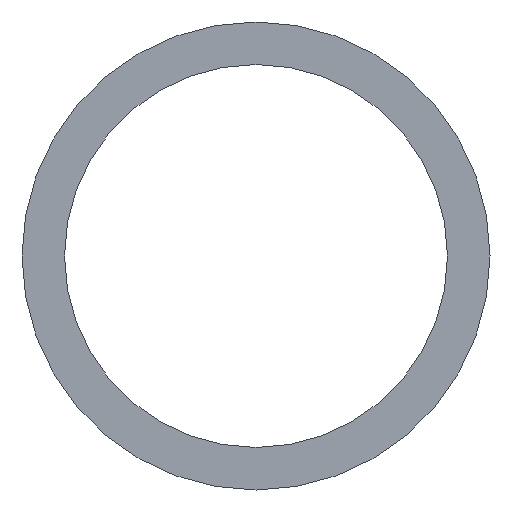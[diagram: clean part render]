
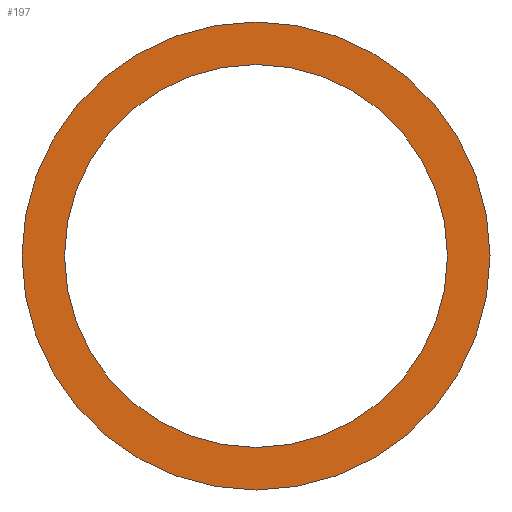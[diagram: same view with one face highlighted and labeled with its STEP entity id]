
A CAD part, front view. The second image highlights one B-rep face of the part: STEP entity #197.
In plain terms, the highlighted planar face has unit normal (0, -1, 0).
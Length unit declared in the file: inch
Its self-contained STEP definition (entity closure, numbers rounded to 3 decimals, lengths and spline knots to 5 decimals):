
#1 = EDGE_CURVE ( 'NONE', #91, #82, #131, .T. ) ;
#30 = CARTESIAN_POINT ( 'NONE',  ( 0., 0., -354.33071 ) ) ;
#38 = DIRECTION ( 'NONE',  ( 0., 1., 0. ) ) ;
#44 = CIRCLE ( 'NONE', #112, 354.33071 ) ;
#47 = ORIENTED_EDGE ( 'NONE', *, *, #147, .T. ) ;
#70 = CARTESIAN_POINT ( 'NONE',  ( 0., 0., 354.33071 ) ) ;
#73 = CARTESIAN_POINT ( 'NONE',  ( 0., 0., 0. ) ) ;
#82 = VERTEX_POINT ( 'NONE', #70 ) ;
#83 = EDGE_CURVE ( 'NONE', #187, #125, #156, .T. ) ;
#85 = ORIENTED_EDGE ( 'NONE', *, *, #83, .F. ) ;
#87 = ORIENTED_EDGE ( 'NONE', *, *, #1, .T. ) ;
#91 = VERTEX_POINT ( 'NONE', #30 ) ;
#101 = EDGE_LOOP ( 'NONE', ( #87, #47 ) ) ;
#104 = FACE_OUTER_BOUND ( 'NONE', #218, .T. ) ;
#105 = ORIENTED_EDGE ( 'NONE', *, *, #182, .F. ) ;
#107 = DIRECTION ( 'NONE',  ( 0., 0., 1. ) ) ;
#112 = AXIS2_PLACEMENT_3D ( 'NONE', #117, #38, #113 ) ;
#113 = DIRECTION ( 'NONE',  ( 0., 0., 1. ) ) ;
#117 = CARTESIAN_POINT ( 'NONE',  ( 0., 0., 0. ) ) ;
#119 = AXIS2_PLACEMENT_3D ( 'NONE', #73, #217, #235 ) ;
#125 = VERTEX_POINT ( 'NONE', #192 ) ;
#126 = PLANE ( 'NONE',  #188 ) ;
#131 = CIRCLE ( 'NONE', #207, 354.33071 ) ;
#147 = EDGE_CURVE ( 'NONE', #82, #91, #44, .T. ) ;
#148 = DIRECTION ( 'NONE',  ( 0., 1., 0. ) ) ;
#149 = DIRECTION ( 'NONE',  ( 0., 0., 1. ) ) ;
#156 = CIRCLE ( 'NONE', #203, 433.07087 ) ;
#166 = FACE_BOUND ( 'NONE', #101, .T. ) ;
#173 = CARTESIAN_POINT ( 'NONE',  ( 0., 0., 0. ) ) ;
#182 = EDGE_CURVE ( 'NONE', #125, #187, #221, .T. ) ;
#187 = VERTEX_POINT ( 'NONE', #238 ) ;
#188 = AXIS2_PLACEMENT_3D ( 'NONE', #190, #148, #107 ) ;
#190 = CARTESIAN_POINT ( 'NONE',  ( 0., 0., 0. ) ) ;
#192 = CARTESIAN_POINT ( 'NONE',  ( 0., 0., 433.07087 ) ) ;
#197 = ADVANCED_FACE ( 'NONE', ( #104, #166 ), #126, .F. ) ;
#203 = AXIS2_PLACEMENT_3D ( 'NONE', #173, #219, #149 ) ;
#207 = AXIS2_PLACEMENT_3D ( 'NONE', #237, #239, #227 ) ;
#217 = DIRECTION ( 'NONE',  ( 0., 1., 0. ) ) ;
#218 = EDGE_LOOP ( 'NONE', ( #85, #105 ) ) ;
#219 = DIRECTION ( 'NONE',  ( 0., 1., 0. ) ) ;
#221 = CIRCLE ( 'NONE', #119, 433.07087 ) ;
#227 = DIRECTION ( 'NONE',  ( 0., 0., 1. ) ) ;
#235 = DIRECTION ( 'NONE',  ( 0., 0., 1. ) ) ;
#237 = CARTESIAN_POINT ( 'NONE',  ( 0., 0., 0. ) ) ;
#238 = CARTESIAN_POINT ( 'NONE',  ( 0., 0., -433.07087 ) ) ;
#239 = DIRECTION ( 'NONE',  ( 0., 1., 0. ) ) ;
